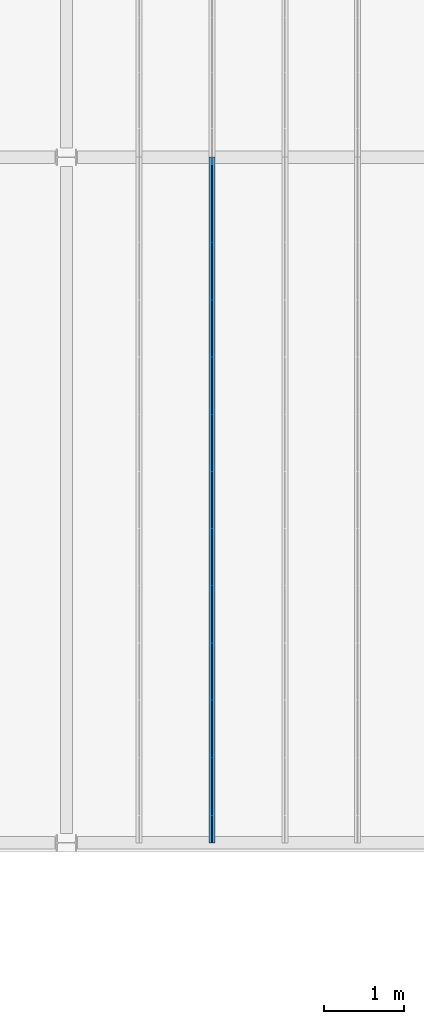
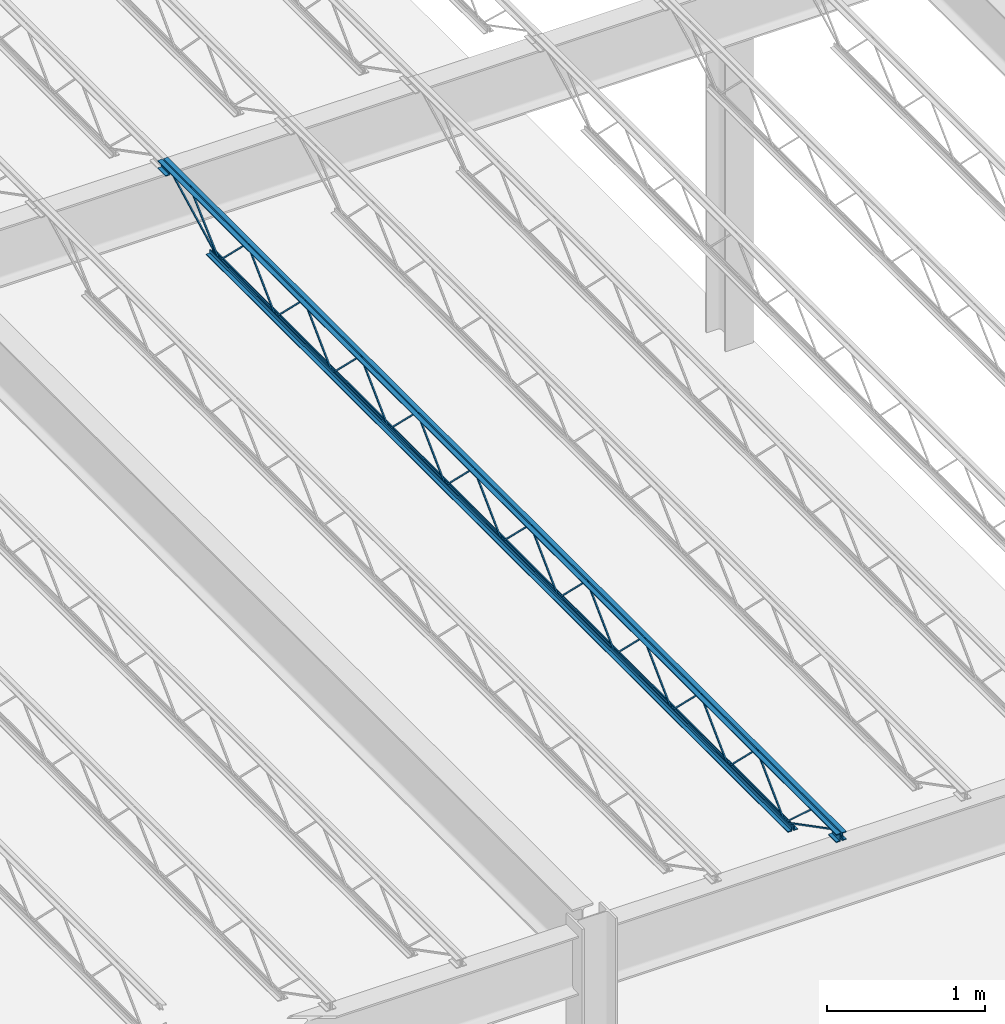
# One storey, part 65 of 119: 1 beam.
"""IFC2X3 building model written with IfcOpenShell, lengths in metres."""

from ifc_helpers import new_model, entity, si_unit, converted_unit, frame, origin, place, context, project, spatial, face_set, surface_model, element, save


model = new_model("IFC2X3")

# Units and contexts
model_context = context("Model", 3, precision=1e-09, world=origin())
plan_context = context("Plan", 3, precision=1e-09, world=origin())
ifc_project = project(units=[si_unit("LENGTHUNIT", "METRE"), si_unit("AREAUNIT", "SQUARE_METRE"), si_unit("VOLUMEUNIT", "CUBIC_METRE"), converted_unit("PLANEANGLEUNIT", "DEGREE", entity("IfcRatioMeasure", 0.01745329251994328), si_unit("PLANEANGLEUNIT", "RADIAN"), dimensions=[0, 0, 0, 0, 0, 0, 0]), si_unit("TIMEUNIT", "SECOND")], contexts=[model_context, plan_context])

# Site, building, storey
site_placement = place(None, origin())
site = spatial("IfcSite", under=ifc_project, at=site_placement, Name="Default", CompositionType="ELEMENT")
building_placement = place(site_placement, origin())
building = spatial("IfcBuilding", under=site, at=building_placement, CompositionType="ELEMENT")
storey_placement = place(building_placement, frame((0.0, 0.0, 4.570000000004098)))
storey = spatial("IfcBuildingStorey", under=building, at=storey_placement, Name="Second Floor", CompositionType="ELEMENT", Elevation=4.570000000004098)

# Beam
beam_placement = place(storey_placement, frame((-5.496750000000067, 10.03999999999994, 4.323999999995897)))
element("IfcBeam", 1, at=beam_placement, inside=storey, Name="M_K-Series Bar Joist-Rod Web:14K1:14K1", ObjectType="M_K-Series Bar Joist-Rod Web:14K1", context=model_context, shape_type="SurfaceModel", body=[
    surface_model("IfcFaceBasedSurfaceModel", [(0.04150000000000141, 6.428799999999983, 0.01110000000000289), (0.03200000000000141, 6.428799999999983, 0.01110000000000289), (0.03200000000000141, 6.428799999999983, 0.001600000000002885), (0.04150000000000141, 6.428799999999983, 0.001600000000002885), (0.0320000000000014, 6.430038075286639, 0.01110000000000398), (0.04150000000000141, 6.430038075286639, 0.01110000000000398), (0.0320000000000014, 6.433911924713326, 0.001600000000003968), (0.0320000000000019, 6.784861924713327, 0.3449000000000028), (0.0320000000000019, 6.787338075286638, 0.3449000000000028), (0.03200000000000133, 7.138288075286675, 0.001600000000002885), (0.03200000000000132, 7.143399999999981, 0.001600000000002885), (0.03200000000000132, 7.143399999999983, 0.01110000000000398), (0.03200000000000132, 7.142161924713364, 0.01110000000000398), (0.0320000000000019, 6.791211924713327, 0.3544000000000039), (0.03200000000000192, 6.780988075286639, 0.3544000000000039), (0.0415000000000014, 6.433911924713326, 0.001600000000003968), (0.04150000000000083, 6.784861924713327, 0.3449000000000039), (0.04150000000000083, 6.78733807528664, 0.3449000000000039), (0.04150000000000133, 7.138288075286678, 0.001600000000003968), (0.04150000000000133, 7.143399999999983, 0.001600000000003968), (0.04150000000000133, 7.143399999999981, 0.01110000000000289), (0.04150000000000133, 7.142161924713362, 0.01110000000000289), (0.0415000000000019, 6.791211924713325, 0.3544000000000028), (0.04150000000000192, 6.780988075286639, 0.3544000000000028), (0.04150000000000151, 5.714199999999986, 0.01110000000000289), (0.0320000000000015, 5.714199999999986, 0.01110000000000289), (0.0320000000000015, 5.714199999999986, 0.001600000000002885), (0.04150000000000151, 5.714199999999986, 0.001600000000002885), (0.0320000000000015, 5.715438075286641, 0.01110000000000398), (0.04150000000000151, 5.715438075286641, 0.01110000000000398), (0.03200000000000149, 5.719311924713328, 0.001600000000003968), (0.032000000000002, 6.070261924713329, 0.3449000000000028), (0.03200000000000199, 6.072738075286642, 0.3449000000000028), (0.03200000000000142, 6.423688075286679, 0.001600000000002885), (0.03200000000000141, 6.428799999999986, 0.001600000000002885), (0.03200000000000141, 6.428799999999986, 0.01110000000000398), (0.03200000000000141, 6.427561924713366, 0.01110000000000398), (0.03200000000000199, 6.076611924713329, 0.3544000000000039), (0.032000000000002, 6.066388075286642, 0.3544000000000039), (0.04150000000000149, 5.719311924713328, 0.001600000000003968), (0.04150000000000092, 6.070261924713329, 0.3449000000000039), (0.04150000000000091, 6.072738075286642, 0.3449000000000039), (0.04150000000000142, 6.423688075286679, 0.001600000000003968), (0.04150000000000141, 6.428799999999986, 0.001600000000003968), (0.04150000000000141, 6.428799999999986, 0.01110000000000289), (0.04150000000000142, 6.427561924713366, 0.01110000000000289), (0.04150000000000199, 6.076611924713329, 0.3544000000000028), (0.04150000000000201, 6.066388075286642, 0.3544000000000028), (0.0415000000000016, 4.999599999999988, 0.01110000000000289), (0.03200000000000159, 4.999599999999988, 0.01110000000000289), (0.03200000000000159, 4.999599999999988, 0.001600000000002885), (0.0415000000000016, 4.999599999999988, 0.001600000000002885), (0.03200000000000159, 5.000838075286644, 0.01110000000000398), (0.0415000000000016, 5.000838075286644, 0.01110000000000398), (0.03200000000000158, 5.00471192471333, 0.001600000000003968), (0.03200000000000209, 5.35566192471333, 0.3449000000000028), (0.03200000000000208, 5.358138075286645, 0.3449000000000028), (0.03200000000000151, 5.709088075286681, 0.001600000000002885), (0.0320000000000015, 5.714199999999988, 0.001600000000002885), (0.0320000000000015, 5.714199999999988, 0.01110000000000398), (0.0320000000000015, 5.712961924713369, 0.01110000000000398), (0.03200000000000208, 5.362011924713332, 0.3544000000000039), (0.0320000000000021, 5.351788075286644, 0.3544000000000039), (0.04150000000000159, 5.00471192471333, 0.001600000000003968), (0.04150000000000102, 5.35566192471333, 0.3449000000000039), (0.04150000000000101, 5.358138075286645, 0.3449000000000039), (0.04150000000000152, 5.709088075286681, 0.001600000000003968), (0.04150000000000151, 5.714199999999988, 0.001600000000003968), (0.04150000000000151, 5.714199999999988, 0.01110000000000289), (0.04150000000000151, 5.712961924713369, 0.01110000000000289), (0.04150000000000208, 5.362011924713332, 0.3544000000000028), (0.0415000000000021, 5.351788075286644, 0.3544000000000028), (0.04150000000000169, 4.28499999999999, 0.01110000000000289), (0.03200000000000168, 4.28499999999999, 0.01110000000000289), (0.03200000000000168, 4.28499999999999, 0.001600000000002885), (0.04150000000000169, 4.28499999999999, 0.001600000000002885), (0.03200000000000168, 4.286238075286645, 0.01110000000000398), (0.04150000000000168, 4.286238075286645, 0.01110000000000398), (0.03200000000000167, 4.290111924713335, 0.001600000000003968), (0.03200000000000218, 4.641061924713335, 0.3449000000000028), (0.03200000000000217, 4.643538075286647, 0.3449000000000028), (0.0320000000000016, 4.994488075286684, 0.001600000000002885), (0.03200000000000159, 4.999599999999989, 0.001600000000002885), (0.03200000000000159, 4.999599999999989, 0.01110000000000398), (0.03200000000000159, 4.998361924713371, 0.01110000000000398), (0.03200000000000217, 4.647411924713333, 0.3544000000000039), (0.03200000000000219, 4.637188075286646, 0.3544000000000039), (0.04150000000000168, 4.290111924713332, 0.001600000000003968), (0.0415000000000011, 4.641061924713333, 0.3449000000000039), (0.0415000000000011, 4.643538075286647, 0.3449000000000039), (0.04150000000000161, 4.994488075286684, 0.001600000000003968), (0.0415000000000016, 4.999599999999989, 0.001600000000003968), (0.0415000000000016, 4.999599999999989, 0.01110000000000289), (0.0415000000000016, 4.998361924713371, 0.01110000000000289), (0.04150000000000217, 4.647411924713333, 0.3544000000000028), (0.04150000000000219, 4.637188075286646, 0.3544000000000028), (0.04150000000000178, 3.570399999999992, 0.01110000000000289), (0.03200000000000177, 3.570399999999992, 0.01110000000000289), (0.03200000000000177, 3.570399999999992, 0.001600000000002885), (0.04150000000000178, 3.570399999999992, 0.001600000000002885), (0.03200000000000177, 3.571638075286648, 0.01110000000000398), (0.04150000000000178, 3.571638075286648, 0.01110000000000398), (0.03200000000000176, 3.575511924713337, 0.001600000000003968), (0.03200000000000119, 3.926461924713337, 0.3449000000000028), (0.03200000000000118, 3.928938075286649, 0.3449000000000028), (0.03200000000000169, 4.279888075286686, 0.001600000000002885), (0.03200000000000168, 4.284999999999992, 0.001600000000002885), (0.03200000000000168, 4.284999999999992, 0.01110000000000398), (0.03200000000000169, 4.283761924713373, 0.01110000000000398), (0.03200000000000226, 3.932811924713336, 0.3544000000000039), (0.03200000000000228, 3.922588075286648, 0.3544000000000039), (0.04150000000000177, 3.575511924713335, 0.001600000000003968), (0.04150000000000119, 3.926461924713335, 0.3449000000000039), (0.04150000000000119, 3.928938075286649, 0.3449000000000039), (0.0415000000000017, 4.279888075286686, 0.001600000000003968), (0.04150000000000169, 4.284999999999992, 0.001600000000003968), (0.04150000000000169, 4.284999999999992, 0.01110000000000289), (0.04150000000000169, 4.283761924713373, 0.01110000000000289), (0.04150000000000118, 3.932811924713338, 0.3544000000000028), (0.0415000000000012, 3.92258807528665, 0.3544000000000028), (0.04150000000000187, 2.855799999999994, 0.01110000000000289), (0.03200000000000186, 2.855799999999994, 0.01110000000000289), (0.03200000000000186, 2.855799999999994, 0.001600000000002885), (0.04150000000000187, 2.855799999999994, 0.001600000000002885), (0.03200000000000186, 2.85703807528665, 0.01110000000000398), (0.04150000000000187, 2.85703807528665, 0.01110000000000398), (0.03200000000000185, 2.860911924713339, 0.001600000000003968), (0.03200000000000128, 3.21186192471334, 0.3449000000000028), (0.03200000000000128, 3.214338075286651, 0.3449000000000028), (0.03200000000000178, 3.565288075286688, 0.001600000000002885), (0.03200000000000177, 3.570399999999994, 0.001600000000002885), (0.03200000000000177, 3.570399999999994, 0.01110000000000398), (0.03200000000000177, 3.569161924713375, 0.01110000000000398), (0.03200000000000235, 3.218211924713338, 0.3544000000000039), (0.03200000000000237, 3.20798807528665, 0.3544000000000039), (0.04150000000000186, 2.860911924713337, 0.001600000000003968), (0.04150000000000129, 3.211861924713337, 0.3449000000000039), (0.04150000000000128, 3.214338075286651, 0.3449000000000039), (0.04150000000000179, 3.565288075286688, 0.001600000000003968), (0.04150000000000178, 3.570399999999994, 0.001600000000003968), (0.04150000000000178, 3.570399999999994, 0.01110000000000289), (0.04150000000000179, 3.569161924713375, 0.01110000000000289), (0.04150000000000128, 3.21821192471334, 0.3544000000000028), (0.04150000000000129, 3.207988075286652, 0.3544000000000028), (0.04150000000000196, 2.141199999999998, 0.01110000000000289), (0.03200000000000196, 2.141199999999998, 0.01110000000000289), (0.03200000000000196, 2.141199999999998, 0.001600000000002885), (0.04150000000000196, 2.141199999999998, 0.001600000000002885), (0.03200000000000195, 2.142438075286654, 0.01110000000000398), (0.04150000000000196, 2.142438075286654, 0.01110000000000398), (0.03200000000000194, 2.146311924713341, 0.001600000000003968), (0.03200000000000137, 2.497261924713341, 0.3449000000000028), (0.03200000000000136, 2.499738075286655, 0.3449000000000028), (0.03200000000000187, 2.850688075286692, 0.001600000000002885), (0.03200000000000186, 2.855799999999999, 0.001600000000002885), (0.03200000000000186, 2.855799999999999, 0.01110000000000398), (0.03200000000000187, 2.85456192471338, 0.01110000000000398), (0.03200000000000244, 2.503611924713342, 0.3544000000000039), (0.03200000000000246, 2.493388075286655, 0.3544000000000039), (0.04150000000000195, 2.146311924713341, 0.001600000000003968), (0.04150000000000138, 2.497261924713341, 0.3449000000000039), (0.04150000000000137, 2.499738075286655, 0.3449000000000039), (0.04150000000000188, 2.850688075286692, 0.001600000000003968), (0.04150000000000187, 2.855799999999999, 0.001600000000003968), (0.04150000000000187, 2.855799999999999, 0.01110000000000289), (0.04150000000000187, 2.85456192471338, 0.01110000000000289), (0.04150000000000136, 2.503611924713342, 0.3544000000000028), (0.04150000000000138, 2.493388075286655, 0.3544000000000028), (0.04150000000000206, 1.426600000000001, 0.01110000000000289), (0.03200000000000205, 1.426600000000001, 0.01110000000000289), (0.03200000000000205, 1.426600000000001, 0.001600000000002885), (0.04150000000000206, 1.426600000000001, 0.001600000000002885), (0.03200000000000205, 1.427838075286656, 0.01110000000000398), (0.04150000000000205, 1.427838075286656, 0.01110000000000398), (0.03200000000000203, 1.431711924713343, 0.001600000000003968), (0.03200000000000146, 1.782661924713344, 0.3449000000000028), (0.03200000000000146, 1.785138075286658, 0.3449000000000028), (0.03200000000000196, 2.136088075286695, 0.001600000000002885), (0.03200000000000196, 2.1412, 0.001600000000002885), (0.03200000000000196, 2.1412, 0.01110000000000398), (0.03200000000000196, 2.139961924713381, 0.01110000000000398), (0.03200000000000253, 1.789011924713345, 0.3544000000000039), (0.03200000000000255, 1.778788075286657, 0.3544000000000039), (0.04150000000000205, 1.431711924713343, 0.001600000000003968), (0.04150000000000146, 1.782661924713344, 0.3449000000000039), (0.04150000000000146, 1.785138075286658, 0.3449000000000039), (0.04150000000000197, 2.136088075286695, 0.001600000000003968), (0.04150000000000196, 2.1412, 0.001600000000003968), (0.04150000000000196, 2.1412, 0.01110000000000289), (0.04150000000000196, 2.139961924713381, 0.01110000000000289), (0.04150000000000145, 1.789011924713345, 0.3544000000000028), (0.04150000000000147, 1.778788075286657, 0.3544000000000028), (0.04150000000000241, 7.143399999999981, 0.01109999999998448), (0.0320000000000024, 7.143399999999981, 0.01109999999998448), (0.0320000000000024, 7.143399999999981, 0.001599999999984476), (0.04150000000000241, 7.143399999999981, 0.001599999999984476), (0.0320000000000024, 7.144638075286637, 0.01109999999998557), (0.0415000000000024, 7.144638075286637, 0.01109999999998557), (0.03200000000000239, 7.148511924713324, 0.001599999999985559), (0.0320000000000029, 7.499461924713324, 0.3448999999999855), (0.03200000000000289, 7.501938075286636, 0.3448999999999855), (0.03200000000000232, 7.852888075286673, 0.001599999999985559), (0.03200000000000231, 7.857999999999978, 0.001599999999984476), (0.03200000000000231, 7.857999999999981, 0.01109999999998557), (0.03200000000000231, 7.856761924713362, 0.01109999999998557), (0.03200000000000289, 7.505811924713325, 0.3543999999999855), (0.0320000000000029, 7.495588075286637, 0.3543999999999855), (0.0415000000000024, 7.148511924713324, 0.001599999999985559), (0.04150000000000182, 7.499461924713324, 0.3448999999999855), (0.04150000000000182, 7.501938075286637, 0.3448999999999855), (0.04150000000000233, 7.852888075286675, 0.001599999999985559), (0.04150000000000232, 7.857999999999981, 0.001599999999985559), (0.04150000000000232, 7.857999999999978, 0.01109999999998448), (0.04150000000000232, 7.85676192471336, 0.01109999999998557), (0.04150000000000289, 7.505811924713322, 0.3543999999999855), (0.04150000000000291, 7.495588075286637, 0.3543999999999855), (0.04150000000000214, 0.7120000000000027, 0.01110000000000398), (0.03200000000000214, 0.7120000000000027, 0.01110000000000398), (0.03200000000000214, 0.7120000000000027, 0.001600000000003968), (0.04150000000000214, 0.7120000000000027, 0.001600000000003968), (0.03200000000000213, 0.7132380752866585, 0.01110000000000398), (0.04150000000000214, 0.7132380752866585, 0.01110000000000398), (0.03200000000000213, 0.7171119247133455, 0.001600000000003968), (0.03200000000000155, 1.068061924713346, 0.3449000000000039), (0.03200000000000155, 1.07053807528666, 0.3449000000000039), (0.03200000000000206, 1.421488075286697, 0.001600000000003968), (0.03200000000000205, 1.426600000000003, 0.001600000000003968), (0.03200000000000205, 1.426600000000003, 0.01110000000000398), (0.03200000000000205, 1.425361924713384, 0.01110000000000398), (0.03200000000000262, 1.074411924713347, 0.3544000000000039), (0.03200000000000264, 1.064188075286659, 0.3544000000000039), (0.04150000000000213, 0.7171119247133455, 0.001600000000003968), (0.04150000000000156, 1.068061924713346, 0.3449000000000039), (0.04150000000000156, 1.07053807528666, 0.3449000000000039), (0.04150000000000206, 1.421488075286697, 0.001600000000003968), (0.04150000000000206, 1.426600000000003, 0.001600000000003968), (0.04150000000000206, 1.426600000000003, 0.01110000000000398), (0.04150000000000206, 1.425361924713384, 0.01110000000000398), (0.04150000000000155, 1.074411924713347, 0.3544000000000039), (0.04150000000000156, 1.064188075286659, 0.3544000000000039), (0.03200000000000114, 8.569999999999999, 0.3559999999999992), (0.0, 8.569999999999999, 0.3559999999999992), (0.0, 8.569999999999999, 0.3494999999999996), (0.02550000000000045, 8.569999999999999, 0.3494999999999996), (0.02550000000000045, 8.569999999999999, 0.3239999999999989), (0.03200000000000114, 8.569999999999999, 0.3239999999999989), (0.04150000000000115, 8.569999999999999, 0.3559999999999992), (0.04150000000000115, 8.569999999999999, 0.3239999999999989), (0.04800000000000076, 8.569999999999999, 0.3239999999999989), (0.04800000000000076, 8.569999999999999, 0.3494999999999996), (0.07350000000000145, 8.569999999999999, 0.3494999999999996), (0.07350000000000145, 8.569999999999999, 0.3559999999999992), (0.03200000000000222, 0.0, 0.3559999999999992), (0.0, 0.0, 0.3559999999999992), (0.0, 0.0, 0.3494999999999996), (0.02550000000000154, 0.0, 0.3494999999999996), (0.02550000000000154, 0.0, 0.3239999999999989), (0.03200000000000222, 0.0, 0.3239999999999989), (0.04150000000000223, 0.0, 0.3559999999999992), (0.04150000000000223, 0.0, 0.3239999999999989), (0.04800000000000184, 0.0, 0.3239999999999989), (0.04800000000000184, 0.0, 0.3494999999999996), (0.07350000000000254, 0.0, 0.3494999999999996), (0.07350000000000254, 0.0, 0.3559999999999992), (0.04150000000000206, 0.09999999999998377, 0.2924999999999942), (0.07350000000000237, 0.09999999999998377, 0.2924999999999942), (0.07350000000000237, 0.09999999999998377, 0.2989999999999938), (0.04800000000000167, 0.09999999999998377, 0.2989999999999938), (0.04800000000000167, 0.09999999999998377, 0.3239999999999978), (0.04150000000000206, 0.09999999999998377, 0.3239999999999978), (0.0, 0.09999999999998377, 0.2924999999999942), (0.03200000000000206, 0.09999999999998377, 0.2924999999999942), (0.03200000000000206, 0.09999999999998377, 0.3239999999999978), (0.02550000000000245, 0.09999999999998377, 0.3239999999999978), (0.02550000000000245, 0.09999999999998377, 0.2989999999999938), (0.0, 0.09999999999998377, 0.2989999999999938), (0.04150000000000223, 0.0, 0.2924999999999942), (0.07350000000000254, 0.0, 0.2924999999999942), (0.07350000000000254, 0.0, 0.2989999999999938), (0.04800000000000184, 0.0, 0.2989999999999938), (0.04800000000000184, 0.0, 0.3239999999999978), (0.04150000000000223, 0.0, 0.3239999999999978), (0.0, 0.0, 0.2924999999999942), (0.03200000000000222, 0.0, 0.2924999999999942), (0.03200000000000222, 0.0, 0.3239999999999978), (0.02550000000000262, 0.0, 0.3239999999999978), (0.02550000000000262, 0.0, 0.2989999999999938), (0.0, 0.0, 0.2989999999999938), (0.03200000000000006, 8.569999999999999, 0.2924999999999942), (0.03200000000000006, 8.569999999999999, 0.3239999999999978), (0.02550000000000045, 8.569999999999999, 0.3239999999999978), (0.02550000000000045, 8.569999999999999, 0.2989999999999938), (0.0, 8.569999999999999, 0.2989999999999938), (0.0, 8.569999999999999, 0.2924999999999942), (0.04150000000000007, 8.569999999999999, 0.2924999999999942), (0.07350000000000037, 8.569999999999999, 0.2924999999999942), (0.07350000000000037, 8.569999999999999, 0.2989999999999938), (0.04800000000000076, 8.569999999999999, 0.2989999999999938), (0.04800000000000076, 8.569999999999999, 0.3239999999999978), (0.04150000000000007, 8.569999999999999, 0.3239999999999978), (0.03200000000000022, 8.469999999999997, 0.2924999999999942), (0.03200000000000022, 8.469999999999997, 0.3239999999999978), (0.02550000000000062, 8.469999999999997, 0.3239999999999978), (0.02550000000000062, 8.469999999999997, 0.2989999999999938), (0.0, 8.469999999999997, 0.2989999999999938), (0.0, 8.469999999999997, 0.2924999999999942), (0.04150000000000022, 8.469999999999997, 0.2924999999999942), (0.07350000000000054, 8.469999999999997, 0.2924999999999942), (0.07350000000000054, 8.469999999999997, 0.2989999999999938), (0.04800000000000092, 8.469999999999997, 0.2989999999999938), (0.04800000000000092, 8.469999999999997, 0.3239999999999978), (0.04150000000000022, 8.469999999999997, 0.3239999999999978), (0.03200000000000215, 7.958000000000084, 0.0), (0.03200000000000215, 7.958000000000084, 0.03199999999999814), (0.02550000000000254, 7.958000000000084, 0.03199999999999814), (0.02550000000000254, 7.958000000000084, 0.006499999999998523), (0.0, 7.958000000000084, 0.006499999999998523), (0.0, 7.958000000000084, 0.0), (0.04150000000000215, 7.958000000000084, 0.0), (0.07350000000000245, 7.958000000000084, 0.0), (0.07350000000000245, 7.958000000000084, 0.006499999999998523), (0.04800000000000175, 7.958000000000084, 0.006499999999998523), (0.04800000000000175, 7.958000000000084, 0.03199999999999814), (0.04150000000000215, 7.958000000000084, 0.03199999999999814), (0.03200000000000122, 0.6120000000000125, 0.0), (0.03200000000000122, 0.6120000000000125, 0.03199999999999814), (0.02550000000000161, 0.6120000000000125, 0.03199999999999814), (0.02550000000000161, 0.6120000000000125, 0.006499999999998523), (0.0, 0.6120000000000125, 0.006499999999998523), (0.0, 0.6120000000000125, 0.0), (0.04150000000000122, 0.6120000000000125, 0.0), (0.07350000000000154, 0.6120000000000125, 0.0), (0.07350000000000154, 0.6120000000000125, 0.006499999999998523), (0.04800000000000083, 0.6120000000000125, 0.006499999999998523), (0.04800000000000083, 0.6120000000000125, 0.03199999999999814), (0.04150000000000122, 0.6120000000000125, 0.03199999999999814), (0.04150000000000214, 0.7141882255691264, 0.01056594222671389), (0.03200000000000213, 0.7141882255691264, 0.01056594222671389), (0.03200000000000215, 0.7098117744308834, 0.002134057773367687), (0.04150000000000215, 0.7098117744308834, 0.00213405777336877), (0.04150000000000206, 0.101159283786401, 0.3287499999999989), (0.04150000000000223, 0.0, 0.3287499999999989), (0.04150000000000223, 0.0, 0.3192499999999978), (0.04150000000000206, 0.09884071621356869, 0.3192499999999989), (0.03200000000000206, 0.09884071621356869, 0.3192499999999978), (0.03200000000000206, 0.101159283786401, 0.3287499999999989), (0.03200000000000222, 0.0, 0.3287499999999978), (0.03200000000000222, 0.0, 0.3192499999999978), (0.04150000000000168, 0.3347428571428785, 0.3417000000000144), (0.03200000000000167, 0.3347428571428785, 0.3417000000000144), (0.03200000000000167, 0.3347428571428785, 0.3322000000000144), (0.04150000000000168, 0.3347428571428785, 0.3322000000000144), (0.03200000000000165, 0.3492758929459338, 0.3417000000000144), (0.04150000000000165, 0.3492758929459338, 0.3417000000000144), (0.03200000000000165, 0.3456098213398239, 0.3322000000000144), (0.03200000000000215, 0.7088091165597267, 0.002831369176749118), (0.03200000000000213, 0.7151908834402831, 0.009868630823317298), (0.04150000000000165, 0.3456098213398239, 0.3322000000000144), (0.04150000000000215, 0.7088091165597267, 0.002831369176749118), (0.04150000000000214, 0.7151908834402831, 0.009868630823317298), (0.04150000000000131, 8.472188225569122, 0.3197840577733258), (0.04150000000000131, 8.467811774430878, 0.328215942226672), (0.03200000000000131, 8.467811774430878, 0.328215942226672), (0.0320000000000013, 8.472188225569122, 0.3197840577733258), (0.04150000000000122, 7.860188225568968, 0.002134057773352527), (0.04150000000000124, 7.855811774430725, 0.01056594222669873), (0.03200000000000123, 7.855811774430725, 0.01056594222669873), (0.03200000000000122, 7.860188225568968, 0.002134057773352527), (0.0415000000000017, 8.233036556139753, 0.3461600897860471), (0.04150000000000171, 8.226592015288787, 0.3531399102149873), (0.03200000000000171, 8.226592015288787, 0.3531399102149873), (0.03200000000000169, 8.233036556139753, 0.3461600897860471), (0.04150000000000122, 7.86122227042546, 0.00286008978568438), (0.04150000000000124, 7.854777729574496, 0.009839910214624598), (0.03200000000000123, 7.854777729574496, 0.009839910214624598), (0.03200000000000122, 7.86122227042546, 0.00286008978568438)], [face_set([[[0, 1, 2, 3]], [[1, 4, 5, 0]], [[2, 6, 7, 8, 9, 10, 11, 12, 13, 14, 4, 1]], [[3, 2, 6, 15]], [[0, 3, 15, 16, 17, 18, 19, 20, 21, 22, 23, 5]], [[4, 5, 23, 14]], [[15, 16, 7, 6]], [[14, 13, 22, 23]], [[16, 7, 8, 17]], [[13, 12, 21, 22]], [[17, 8, 9, 18]], [[20, 11, 10, 19]], [[12, 11, 20, 21]], [[18, 9, 10, 19]]]), face_set([[[24, 25, 26, 27]], [[25, 28, 29, 24]], [[26, 30, 31, 32, 33, 34, 35, 36, 37, 38, 28, 25]], [[27, 26, 30, 39]], [[24, 27, 39, 40, 41, 42, 43, 44, 45, 46, 47, 29]], [[28, 29, 47, 38]], [[39, 40, 31, 30]], [[38, 37, 46, 47]], [[40, 31, 32, 41]], [[37, 36, 45, 46]], [[41, 32, 33, 42]], [[44, 35, 34, 43]], [[36, 35, 44, 45]], [[42, 33, 34, 43]]]), face_set([[[48, 49, 50, 51]], [[49, 52, 53, 48]], [[50, 54, 55, 56, 57, 58, 59, 60, 61, 62, 52, 49]], [[51, 50, 54, 63]], [[48, 51, 63, 64, 65, 66, 67, 68, 69, 70, 71, 53]], [[52, 53, 71, 62]], [[63, 64, 55, 54]], [[62, 61, 70, 71]], [[64, 55, 56, 65]], [[61, 60, 69, 70]], [[65, 56, 57, 66]], [[68, 59, 58, 67]], [[60, 59, 68, 69]], [[66, 57, 58, 67]]]), face_set([[[72, 73, 74, 75]], [[73, 76, 77, 72]], [[74, 78, 79, 80, 81, 82, 83, 84, 85, 86, 76, 73]], [[75, 74, 78, 87]], [[72, 75, 87, 88, 89, 90, 91, 92, 93, 94, 95, 77]], [[76, 77, 95, 86]], [[87, 88, 79, 78]], [[86, 85, 94, 95]], [[88, 79, 80, 89]], [[85, 84, 93, 94]], [[89, 80, 81, 90]], [[92, 83, 82, 91]], [[84, 83, 92, 93]], [[90, 81, 82, 91]]]), face_set([[[96, 97, 98, 99]], [[97, 100, 101, 96]], [[98, 102, 103, 104, 105, 106, 107, 108, 109, 110, 100, 97]], [[99, 98, 102, 111]], [[96, 99, 111, 112, 113, 114, 115, 116, 117, 118, 119, 101]], [[100, 101, 119, 110]], [[111, 112, 103, 102]], [[110, 109, 118, 119]], [[112, 103, 104, 113]], [[109, 108, 117, 118]], [[113, 104, 105, 114]], [[116, 107, 106, 115]], [[108, 107, 116, 117]], [[114, 105, 106, 115]]]), face_set([[[120, 121, 122, 123]], [[121, 124, 125, 120]], [[122, 126, 127, 128, 129, 130, 131, 132, 133, 134, 124, 121]], [[123, 122, 126, 135]], [[120, 123, 135, 136, 137, 138, 139, 140, 141, 142, 143, 125]], [[124, 125, 143, 134]], [[135, 136, 127, 126]], [[134, 133, 142, 143]], [[136, 127, 128, 137]], [[133, 132, 141, 142]], [[137, 128, 129, 138]], [[140, 131, 130, 139]], [[132, 131, 140, 141]], [[138, 129, 130, 139]]]), face_set([[[144, 145, 146, 147]], [[145, 148, 149, 144]], [[146, 150, 151, 152, 153, 154, 155, 156, 157, 158, 148, 145]], [[147, 146, 150, 159]], [[144, 147, 159, 160, 161, 162, 163, 164, 165, 166, 167, 149]], [[148, 149, 167, 158]], [[159, 160, 151, 150]], [[158, 157, 166, 167]], [[160, 151, 152, 161]], [[157, 156, 165, 166]], [[161, 152, 153, 162]], [[164, 155, 154, 163]], [[156, 155, 164, 165]], [[162, 153, 154, 163]]]), face_set([[[168, 169, 170, 171]], [[169, 172, 173, 168]], [[170, 174, 175, 176, 177, 178, 179, 180, 181, 182, 172, 169]], [[171, 170, 174, 183]], [[168, 171, 183, 184, 185, 186, 187, 188, 189, 190, 191, 173]], [[172, 173, 191, 182]], [[183, 184, 175, 174]], [[182, 181, 190, 191]], [[184, 175, 176, 185]], [[181, 180, 189, 190]], [[185, 176, 177, 186]], [[188, 179, 178, 187]], [[180, 179, 188, 189]], [[186, 177, 178, 187]]]), face_set([[[192, 193, 194, 195]], [[193, 196, 197, 192]], [[194, 198, 199, 200, 201, 202, 203, 204, 205, 206, 196, 193]], [[195, 194, 198, 207]], [[192, 195, 207, 208, 209, 210, 211, 212, 213, 214, 215, 197]], [[196, 197, 215, 206]], [[207, 208, 199, 198]], [[206, 205, 214, 215]], [[208, 199, 200, 209]], [[205, 204, 213, 214]], [[209, 200, 201, 210]], [[212, 203, 202, 211]], [[204, 203, 212, 213]], [[210, 201, 202, 211]]]), face_set([[[216, 217, 218, 219]], [[217, 220, 221, 216]], [[218, 222, 223, 224, 225, 226, 227, 228, 229, 230, 220, 217]], [[219, 218, 222, 231]], [[216, 219, 231, 232, 233, 234, 235, 236, 237, 238, 239, 221]], [[220, 221, 239, 230]], [[231, 232, 223, 222]], [[230, 229, 238, 239]], [[232, 223, 224, 233]], [[229, 228, 237, 238]], [[233, 224, 225, 234]], [[236, 227, 226, 235]], [[228, 227, 236, 237]], [[234, 225, 226, 235]]]), face_set([[[240, 241, 242, 243, 244, 245]], [[246, 247, 248, 249, 250, 251]], [[252, 253, 254, 255, 256, 257]], [[258, 259, 260, 261, 262, 263]], [[245, 240, 252, 257]], [[244, 245, 257, 256]], [[243, 255, 256, 244]], [[242, 243, 255, 254]], [[241, 253, 254, 242]], [[240, 252, 253, 241]], [[251, 263, 258, 246]], [[250, 251, 263, 262]], [[249, 250, 262, 261]], [[248, 249, 261, 260]], [[247, 248, 260, 259]], [[246, 258, 259, 247]]]), face_set([[[264, 265, 266, 267, 268, 269]], [[270, 271, 272, 273, 274, 275]], [[276, 277, 278, 279, 280, 281]], [[282, 283, 284, 285, 286, 287]], [[269, 281, 276, 264]], [[268, 280, 281, 269]], [[267, 268, 280, 279]], [[266, 278, 279, 267]], [[265, 266, 278, 277]], [[264, 265, 277, 276]], [[275, 287, 282, 270]], [[274, 286, 287, 275]], [[273, 285, 286, 274]], [[272, 284, 285, 273]], [[271, 272, 284, 283]], [[270, 271, 283, 282]]]), face_set([[[288, 289, 290, 291, 292, 293]], [[294, 295, 296, 297, 298, 299]], [[300, 301, 302, 303, 304, 305]], [[306, 307, 308, 309, 310, 311]], [[293, 288, 300, 305]], [[292, 304, 305, 293]], [[291, 303, 304, 292]], [[290, 302, 303, 291]], [[289, 301, 302, 290]], [[288, 289, 301, 300]], [[299, 311, 306, 294]], [[298, 310, 311, 299]], [[297, 298, 310, 309]], [[296, 308, 309, 297]], [[295, 296, 308, 307]], [[294, 295, 307, 306]]]), face_set([[[312, 313, 314, 315, 316, 317]], [[318, 319, 320, 321, 322, 323]], [[324, 325, 326, 327, 328, 329]], [[330, 331, 332, 333, 334, 335]], [[317, 312, 324, 329]], [[316, 328, 329, 317]], [[315, 327, 328, 316]], [[314, 326, 327, 315]], [[313, 325, 326, 314]], [[312, 313, 325, 324]], [[323, 335, 330, 318]], [[322, 334, 335, 323]], [[321, 322, 334, 333]], [[320, 332, 333, 321]], [[319, 320, 332, 331]], [[318, 319, 331, 330]]]), face_set([[[336, 337, 338, 339]], [[339, 336, 340, 341, 342, 343]], [[338, 339, 343, 344]], [[337, 345, 346, 347, 344, 338]], [[336, 340, 345, 337]], [[341, 346, 347, 342]], [[344, 343, 342, 347]], [[340, 341, 346, 345]]]), face_set([[[348, 349, 350, 351]], [[349, 352, 353, 348]], [[350, 354, 355, 356, 352, 349]], [[351, 350, 354, 357]], [[348, 351, 357, 358, 359, 353]], [[359, 356, 355, 358]], [[352, 356, 359, 353]], [[357, 354, 355, 358]]]), face_set([[[360, 361, 362, 363]], [[364, 365, 366, 367]], [[363, 360, 364, 367]], [[362, 366, 367, 363]], [[361, 365, 366, 362]], [[360, 361, 365, 364]]]), face_set([[[368, 369, 370, 371]], [[372, 373, 374, 375]], [[371, 375, 372, 368]], [[370, 374, 375, 371]], [[369, 370, 374, 373]], [[368, 369, 373, 372]]])]),
])

save(model, "model.ifc")
